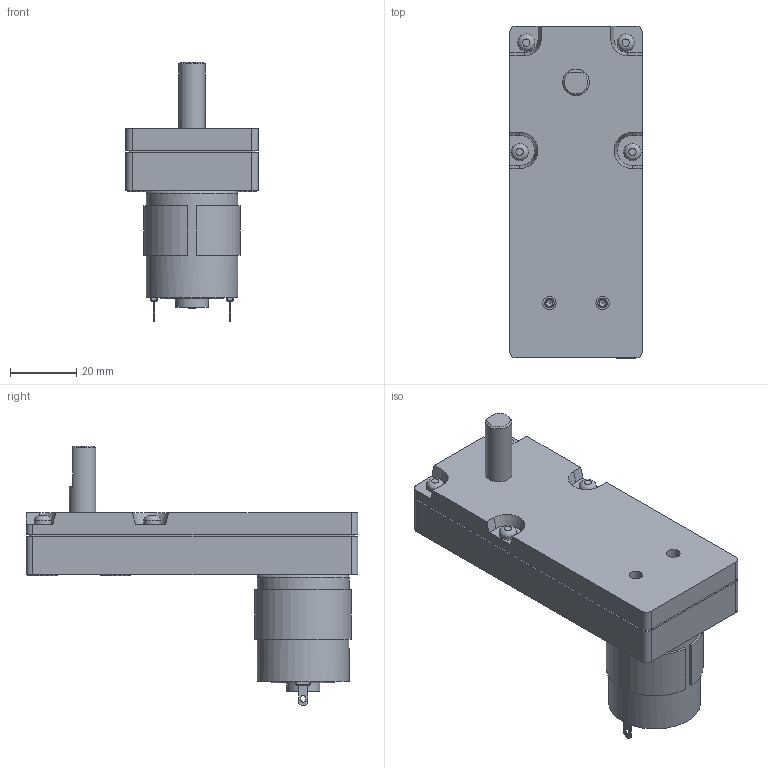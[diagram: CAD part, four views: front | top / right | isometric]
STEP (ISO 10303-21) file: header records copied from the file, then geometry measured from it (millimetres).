
FILE_DESCRIPTION(/* description */ (''),/* implementation_level */ '2;1');
FILE_NAME(/* name */ 'TP-2932#-IGL,IML.stp',/* time_stamp */ '2024-01-10T11:13:44+09:00',/* author */ ('user'),/* organization */ (''),/* preprocessor_version */ 'ST-DEVELOPER v19.2',/* originating_system */ 'Autodesk Inventor 2024',/* authorisation */ '');
FILE_SCHEMA (('AUTOMOTIVE_DESIGN { 1 0 10303 214 3 1 1 }'));
Length unit declared in the file: millimetre
Products named in the file (3): TP-2932#-IGL,IML-J00-24; igl,iml; TP-2932#(RS-365PH)
Assembly tree (2 placements, depth 2):
  TP-2932#-IGL,IML-J00-24
    igl,iml
    TP-2932#(RS-365PH)
Bounding box: 40 x 100 x 78.2 mm (x, y, z)
Volume: 94153 mm3; surface area: 20130 mm2
Topology: 2 solids, 2 shells, 214 faces, 470 edges, 303 vertices
Faces by surface type: plane 125, cylinder 69, cone 12, bspline 4, torus 4
Full cylindrical faces by diameter (mm): 2 x3, 2.113 x2, 2.3 x2, 2.5 x5, 2.8 x2, 3.242 x4, 4 x2, 5.2 x4, 6 x4, 8 x2, 9 x6, 10 x3, 12 x1, 14 x1, 19 x1, 26.7 x1, 27.7 x1
Entity records: 6189 total; most frequent: CARTESIAN_POINT 1094, DIRECTION 1070, ORIENTED_EDGE 928, EDGE_CURVE 464, AXIS2_PLACEMENT_3D 393, VERTEX_POINT 303, LINE 284, VECTOR 284
